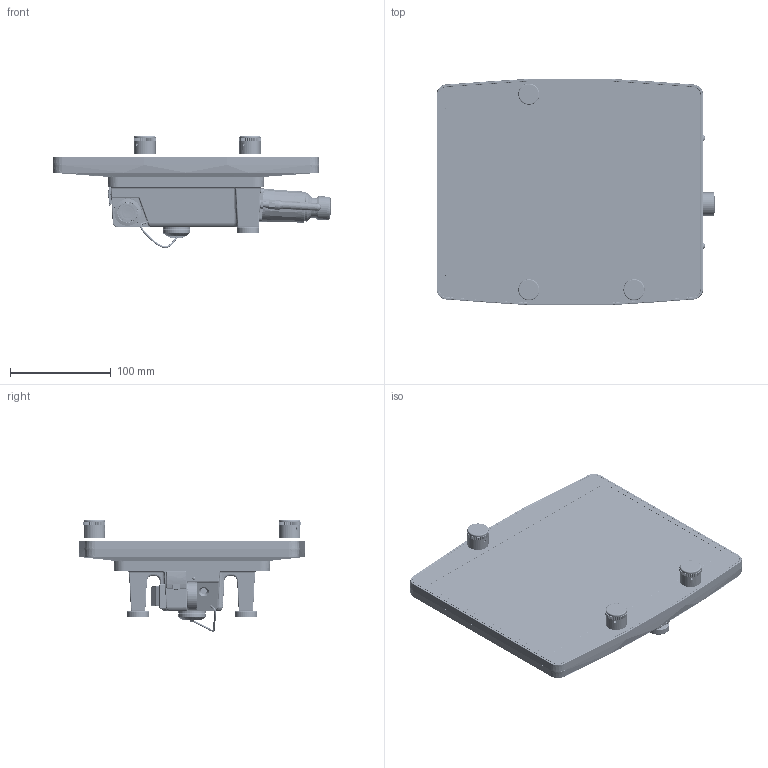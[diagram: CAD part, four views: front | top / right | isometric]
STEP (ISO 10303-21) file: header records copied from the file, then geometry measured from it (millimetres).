
FILE_DESCRIPTION (( 'STEP AP214' ), '1' );
FILE_NAME ('Support-Daten HGW1033-32 12-246-1033-32 20190218.STEP', '2019-02-18T09:57:07', ( 'SIGMATEK GmbH & Co KG' ), ( 'SIGMATEK GmbH & Co KG' ), 'SwSTEP 2.0', 'SolidWorks 2018', '' );
FILE_SCHEMA (( 'AUTOMOTIVE_DESIGN' ));
Length unit declared in the file: millimetre
Products named in the file (38): 7227771142 Touch-Displaykombi (Ampire AM-1280800NNTZQW-T20H)_Daten f. Support; 7227771142 Cover Lens Touch-Displaykombi (Ampire AM-1280800NNTZQW-T20H_Daten f. Support; HGW-KAB-04 ON-OFF Taster-Kabel HGW1033-3_Mit Tastererh”hung; Zexxxx-4521-x2 Frontfolie HGW1033-32_Standard 5149992511; 7297771222 Taster mit EIN-AUS Symbol Beleuchtet, 1 Öffner_Ohne Mutter; HGW-KAB-02 Schlüsselschalterkabel HGW1033-3_Daten f. Support; 7297771233 Drehknopf A1422469 OKW; Support-Daten HGW1033-32 12-246-1033-32 20190218; Dummy Lorlin Schl黶selschalter_SRL-5-K-S-2_mit Schl乻sel; 135801-SMD-XX_Support Daten; HGW-KAB-01 Zustimmtasterkabel HGW1033-3_Daten f. Support; 1020141024 7 Seg_dual_kcdc02_105_red; 7297771120 Zustimmtaster HE3B_M2PY; 1020141051 Kingbright APT2012VBC-D SMD LED 0805 BLAU ger; HGW-KAB-00 Nothaltkabel HGW1033-3_Daten f. Support; 1020141004 SMD Led rot 170617; 7297771221 Not-Halt Taster beleuchtet (Schlegel FRVKDOO_R0) Nachgezeichnet; 1020141038 HSMF-C165 SMD LED 0603 ROT-GR逴 ger (Avago); 3030301138 Flachkopfschraube ISO 7045 (DIN 7985) M2 x 6 Torx - 4.8 - TeclackA2F; HGT Rückteil KPL_Support-Daten; 3030301075 PT-Senkkopfschraube WN1423 KA22x8 Torx; Dummy Schnur f. Kappe Ladestecker; Three-Bond Propfen Wandhalterung; 4080225590 Kappe f. Mag. Buchse (M4Z003-000 Rosenberger); 3030202836-magnet22x6-M4; 4080225591 Mag. Buchse (C003-17-200-C Rosenberger); ZM1839-4531-10 Notauserhöhung 45 Spritzguss HBG-HGT; 7277771651 Antennekabel UFL-RP-SMA 150mm 50R, 6GHz, Ins.Loss 1.5dB SINBON_Ohne Kabel; USB-Abdeckung 3030201646-2 (RAL7035 lichtgrau) 3030201647-2 (RAL7024 grafitgrau)_mit Stiftdichtung; 7277771651 Federscheibe Antennensockel; 3030202676 Mentor Lichtleiter 12598 - LU PLP1-C- 6,4-G; 7277771651 Mutter Antennensockel; ZM1508-2459-10 Rueckwand HBG-HGT_ZM1839-4156-10 Gehеse R…kteil HGW1033-3 (Nachb.) (Pr. 07516); Mittelteil_10z_HBG-HGT_V2.0_Zexxxx-4731-x3 Geh„use Mittelteil HGW1033-3 (Nachb.); 7717771042 Stabantenne mit RP-SMA 2.4 u. 5 GHz 50Ohm Abracon; ZM1337-2930-10 Front_10z_HBG-HGT_ZExxxx-4520-x2 Geh„use Front Nachar. HGW1033-X (Pr. 07317); ZM1839-4353-20 Taster-Erhöhung HGW1033-3
Assembly tree (63 placements, depth 4):
  Support-Daten HGW1033-32 12-246-1033-32 20190218
    Zexxxx-4521-x2 Frontfolie HGW1033-32_Standard 5149992511
    7227771142 Touch-Displaykombi (Ampire AM-1280800NNTZQW-T20H)_Daten f. Support
      7227771142 Cover Lens Touch-Displaykombi (Ampire AM-1280800NNTZQW-T20H_Daten f. Support
    ZM1337-2930-10 Front_10z_HBG-HGT_ZExxxx-4520-x2 Geh„use Front Nachar. HGW1033-X (Pr. 07317)
    Mittelteil_10z_HBG-HGT_V2.0_Zexxxx-4731-x3 Geh„use Mittelteil HGW1033-3 (Nachb.)
    HGT Rückteil KPL_Support-Daten
      ZM1508-2459-10 Rueckwand HBG-HGT_ZM1839-4156-10 Gehеse R…kteil HGW1033-3 (Nachb.) (Pr. 07516)
      3030202676 Mentor Lichtleiter 12598 - LU PLP1-C- 6,4-G
      USB-Abdeckung 3030201646-2 (RAL7035 lichtgrau) 3030201647-2 (RAL7024 grafitgrau)_mit Stiftdichtung
      ZM1839-4531-10 Notauserhöhung 45 Spritzguss HBG-HGT
      3030202836-magnet22x6-M4  x2
      Three-Bond Propfen Wandhalterung  x4
      3030301075 PT-Senkkopfschraube WN1423 KA22x8 Torx  x6
      3030301138 Flachkopfschraube ISO 7045 (DIN 7985) M2 x 6 Torx - 4.8 - TeclackA2F  x4
      HGW-KAB-00 Nothaltkabel HGW1033-3_Daten f. Support
        7297771221 Not-Halt Taster beleuchtet (Schlegel FRVKDOO_R0) Nachgezeichnet
      HGW-KAB-01 Zustimmtasterkabel HGW1033-3_Daten f. Support
        7297771120 Zustimmtaster HE3B_M2PY
      HGW-KAB-02 Schlüsselschalterkabel HGW1033-3_Daten f. Support
        Dummy Lorlin Schl黶selschalter_SRL-5-K-S-2_mit Schl乻sel
      HGW-KAB-04 ON-OFF Taster-Kabel HGW1033-3_Mit Tastererh”hung
        7297771222 Taster mit EIN-AUS Symbol Beleuchtet, 1 Öffner_Ohne Mutter
      ZM1839-4353-20 Taster-Erhöhung HGW1033-3
      7717771042 Stabantenne mit RP-SMA 2.4 u. 5 GHz 50Ohm Abracon  x2
      7277771651 Antennekabel UFL-RP-SMA 150mm 50R, 6GHz, Ins.Loss 1.5dB SINBON_Ohne Kabel  x2
        7277771651 Antennekabel UFL-RP-SMA 150mm 50R, 6GHz, Ins.Loss 1.5dB SINBON_Ohne Kabel
        7277771651 Mutter Antennensockel
        7277771651 Federscheibe Antennensockel
      4080225591 Mag. Buchse (C003-17-200-C Rosenberger)
      4080225590 Kappe f. Mag. Buchse (M4Z003-000 Rosenberger)
      Dummy Schnur f. Kappe Ladestecker
    135801-SMD-XX_Support Daten
      1020141038 HSMF-C165 SMD LED 0603 ROT-GR逴 ger (Avago)
      1020141004 SMD Led rot 170617
      1020141051 Kingbright APT2012VBC-D SMD LED 0805 BLAU ger
      1020141024 7 Seg_dual_kcdc02_105_red
    3030301075 PT-Senkkopfschraube WN1423 KA22x8 Torx  x10
    7297771233 Drehknopf A1422469 OKW  x3
Bounding box: 276.19 x 224.72 x 110.85 mm (x, y, z)
Volume: 430941.7 mm3; surface area: 424255.5 mm2
Topology: 67 solids, 68 shells, 11386 faces, 27569 edges, 15879 vertices
Faces by surface type: cylinder 3252, plane 3109, bspline 2690, torus 1122, cone 697, sphere 516
Entity records: 354736 total; most frequent: CARTESIAN_POINT 143306, ORIENTED_EDGE 45448, DIRECTION 40197, EDGE_CURVE 22724, AXIS2_PLACEMENT_3D 15999, VERTEX_POINT 13227, EDGE_LOOP 10299, FACE_OUTER_BOUND 9841
